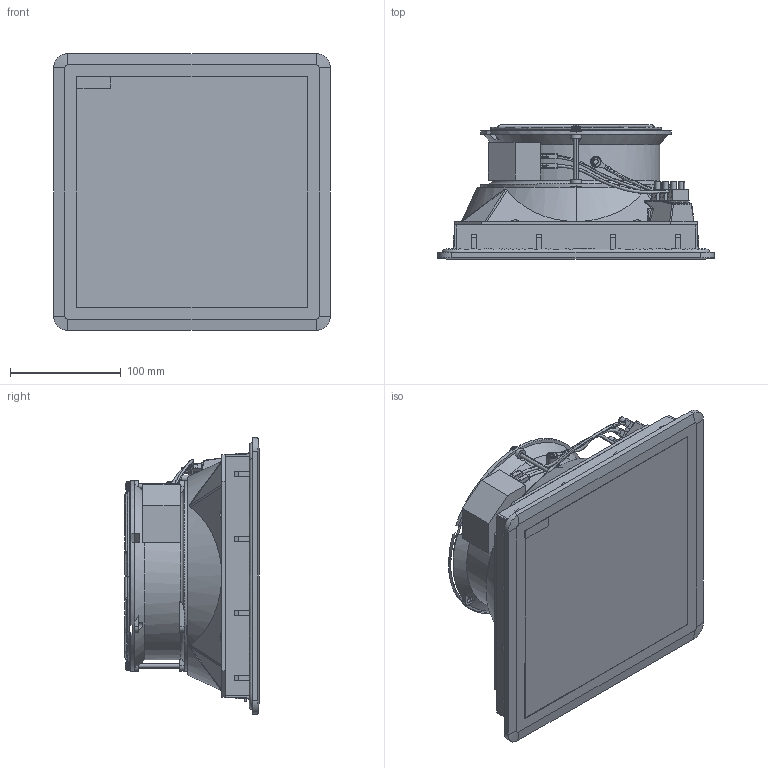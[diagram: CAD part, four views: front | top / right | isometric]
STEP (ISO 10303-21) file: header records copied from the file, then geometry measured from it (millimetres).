
FILE_DESCRIPTION(/* description */ (''),/* implementation_level */ '2;1');
FILE_NAME(/* name */ 'FP3215~1',/* time_stamp */ '2019-06-27T12:21:18+02:00',/* author */ (''),/* organization */ (''),/* preprocessor_version */ 'ST-DEVELOPER v14',/* originating_system */ '',/* authorisation */ '');
FILE_SCHEMA (('CONFIG_CONTROL_DESIGN'));
Length unit declared in the file: millimetre
Products named in the file (1): Document
Bounding box: 249.31 x 120.92 x 249.31 mm (x, y, z)
Volume: 7337.2 mm3; surface area: 244883.1 mm2
Topology: 5 solids, 69 shells, 717 faces, 1991 edges, 1375 vertices
Faces by surface type: plane 390, bspline 327
Entity records: 55469 total; most frequent: CARTESIAN_POINT 43825, ORIENTED_EDGE 3650, EDGE_CURVE 1991, VERTEX_POINT 1375, B_SPLINE_CURVE_WITH_KNOTS 918, EDGE_LOOP 792, ADVANCED_FACE 717, FACE_OUTER_BOUND 717
